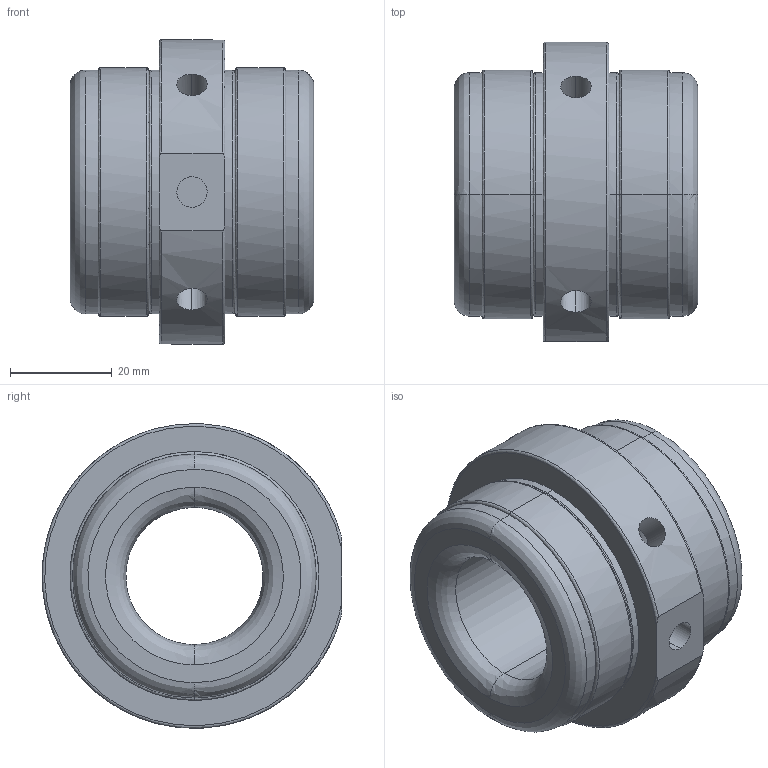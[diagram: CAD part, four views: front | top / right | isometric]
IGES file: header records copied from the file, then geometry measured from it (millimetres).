
Start section: ------------------------------------------------------------------------
Global section: file name: D:\ICADMX\tmp\trans3d_spg\TGMX25.588.RBG030GCA_8127.igs; native system: spGate; preprocessor: ver11.3.7; author: Unknown; organization: Unknown; date: 150330.135553; units: millimetre
Bounding box: 48 x 58.95 x 59.97 mm (x, y, z)
Volume: 71848.3 mm3; surface area: 16833.6 mm2
Topology: 1 solids, 1 shells, 79 faces, 172 edges, 92 vertices
Faces by surface type: bspline 79
